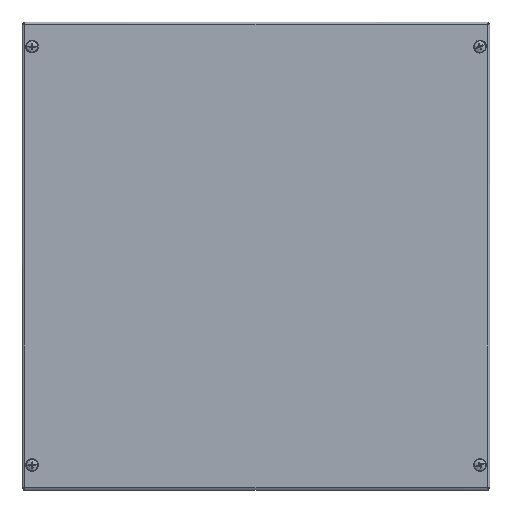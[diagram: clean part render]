
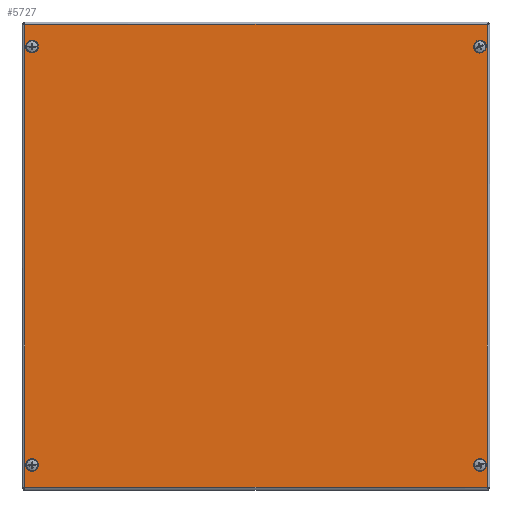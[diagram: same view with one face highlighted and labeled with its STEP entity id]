
A CAD part, top view. The second image highlights one B-rep face of the part: STEP entity #5727.
In plain terms, the highlighted planar face has unit normal (0, 0, 1) as drawn and (0, 0, -1) by its records, which use the part's own axes.
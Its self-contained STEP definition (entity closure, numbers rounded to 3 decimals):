
#118 = PLANE ( 'NONE',  #5169 ) ;
#128 = EDGE_CURVE ( 'NONE', #9107, #3028, #13155, .T. ) ;
#237 = LINE ( 'NONE', #12317, #1983 ) ;
#330 = CARTESIAN_POINT ( 'NONE',  ( -178., 170., -1.2 ) ) ;
#352 = AXIS2_PLACEMENT_3D ( 'NONE', #10757, #4428, #5777 ) ;
#436 = CARTESIAN_POINT ( 'NONE',  ( -182., -170., -1.2 ) ) ;
#445 = VECTOR ( 'NONE', #10883, 1000. ) ;
#817 = CARTESIAN_POINT ( 'NONE',  ( 182., -170., -1.2 ) ) ;
#1186 = CARTESIAN_POINT ( 'NONE',  ( 186., -170., -1.2 ) ) ;
#1303 = ORIENTED_EDGE ( 'NONE', *, *, #128, .T. ) ;
#1393 = DIRECTION ( 'NONE',  ( 1., 0., 0. ) ) ;
#1542 = EDGE_LOOP ( 'NONE', ( #4834, #8931 ) ) ;
#1595 = EDGE_LOOP ( 'NONE', ( #13066, #11720 ) ) ;
#1776 = DIRECTION ( 'NONE',  ( 0., -1., 0. ) ) ;
#1983 = VECTOR ( 'NONE', #10972, 1000. ) ;
#2049 = EDGE_CURVE ( 'NONE', #12381, #6771, #4382, .T. ) ;
#2065 = DIRECTION ( 'NONE',  ( 0., 0., 1. ) ) ;
#2163 = ORIENTED_EDGE ( 'NONE', *, *, #10282, .T. ) ;
#2205 = FACE_OUTER_BOUND ( 'NONE', #4569, .T. ) ;
#2556 = CARTESIAN_POINT ( 'NONE',  ( 182., -170., -1.2 ) ) ;
#2767 = DIRECTION ( 'NONE',  ( 0., 0., 1. ) ) ;
#2941 = ORIENTED_EDGE ( 'NONE', *, *, #4074, .T. ) ;
#3028 = VERTEX_POINT ( 'NONE', #1186 ) ;
#3058 = DIRECTION ( 'NONE',  ( 0., 0., 1. ) ) ;
#3351 = LINE ( 'NONE', #7424, #445 ) ;
#3438 = EDGE_CURVE ( 'NONE', #9289, #15317, #9785, .T. ) ;
#3766 = AXIS2_PLACEMENT_3D ( 'NONE', #12778, #8011, #14084 ) ;
#3898 = DIRECTION ( 'NONE',  ( 0., 0., 1. ) ) ;
#3918 = DIRECTION ( 'NONE',  ( 1., 0., 0. ) ) ;
#3925 = CIRCLE ( 'NONE', #12935, 4. ) ;
#3965 = DIRECTION ( 'NONE',  ( 0., 0., 1. ) ) ;
#4074 = EDGE_CURVE ( 'NONE', #15117, #9289, #10174, .T. ) ;
#4082 = DIRECTION ( 'NONE',  ( 0., 0., 1. ) ) ;
#4239 = VERTEX_POINT ( 'NONE', #14470 ) ;
#4281 = ORIENTED_EDGE ( 'NONE', *, *, #12298, .T. ) ;
#4382 = CIRCLE ( 'NONE', #3766, 4. ) ;
#4428 = DIRECTION ( 'NONE',  ( 0., 0., 1. ) ) ;
#4569 = EDGE_LOOP ( 'NONE', ( #13392, #6776, #2941, #5632 ) ) ;
#4644 = VERTEX_POINT ( 'NONE', #330 ) ;
#4691 = FACE_BOUND ( 'NONE', #13509, .T. ) ;
#4729 = EDGE_CURVE ( 'NONE', #8464, #15976, #7034, .T. ) ;
#4834 = ORIENTED_EDGE ( 'NONE', *, *, #6335, .T. ) ;
#5169 = AXIS2_PLACEMENT_3D ( 'NONE', #11228, #8787, #1393 ) ;
#5363 = EDGE_CURVE ( 'NONE', #4239, #15117, #3351, .T. ) ;
#5478 = FACE_BOUND ( 'NONE', #1542, .T. ) ;
#5632 = ORIENTED_EDGE ( 'NONE', *, *, #3438, .T. ) ;
#5727 = ADVANCED_FACE ( 'NONE', ( #11675, #4691, #7219, #5478, #2205 ), #118, .F. ) ;
#5777 = DIRECTION ( 'NONE',  ( 1., 0., 0. ) ) ;
#6329 = CARTESIAN_POINT ( 'NONE',  ( 182., 170., -1.2 ) ) ;
#6335 = EDGE_CURVE ( 'NONE', #4644, #8668, #3925, .T. ) ;
#6361 = AXIS2_PLACEMENT_3D ( 'NONE', #817, #2065, #14385 ) ;
#6411 = CARTESIAN_POINT ( 'NONE',  ( 188.063, -188.063, -1.2 ) ) ;
#6723 = ORIENTED_EDGE ( 'NONE', *, *, #4729, .T. ) ;
#6724 = DIRECTION ( 'NONE',  ( 1., 0., 0. ) ) ;
#6771 = VERTEX_POINT ( 'NONE', #12948 ) ;
#6776 = ORIENTED_EDGE ( 'NONE', *, *, #5363, .T. ) ;
#7034 = CIRCLE ( 'NONE', #352, 4. ) ;
#7106 = AXIS2_PLACEMENT_3D ( 'NONE', #436, #4082, #3918 ) ;
#7219 = FACE_BOUND ( 'NONE', #15480, .T. ) ;
#7424 = CARTESIAN_POINT ( 'NONE',  ( -188.093, 188.063, -1.2 ) ) ;
#7498 = CARTESIAN_POINT ( 'NONE',  ( 188.093, -188.063, -1.2 ) ) ;
#7519 = DIRECTION ( 'NONE',  ( 1., 0., 0. ) ) ;
#7679 = CARTESIAN_POINT ( 'NONE',  ( 186., 170., -1.2 ) ) ;
#7691 = AXIS2_PLACEMENT_3D ( 'NONE', #2556, #3898, #7519 ) ;
#7904 = CARTESIAN_POINT ( 'NONE',  ( -188.063, -188.063, -1.2 ) ) ;
#8011 = DIRECTION ( 'NONE',  ( 0., 0., 1. ) ) ;
#8330 = AXIS2_PLACEMENT_3D ( 'NONE', #6329, #2767, #14954 ) ;
#8464 = VERTEX_POINT ( 'NONE', #13204 ) ;
#8668 = VERTEX_POINT ( 'NONE', #9718 ) ;
#8787 = DIRECTION ( 'NONE',  ( 0., 0., 1. ) ) ;
#8931 = ORIENTED_EDGE ( 'NONE', *, *, #12864, .T. ) ;
#9056 = CARTESIAN_POINT ( 'NONE',  ( 188.063, 188.093, -1.2 ) ) ;
#9107 = VERTEX_POINT ( 'NONE', #15894 ) ;
#9289 = VERTEX_POINT ( 'NONE', #6411 ) ;
#9718 = CARTESIAN_POINT ( 'NONE',  ( -186., 170., -1.2 ) ) ;
#9785 = LINE ( 'NONE', #7498, #12682 ) ;
#10174 = LINE ( 'NONE', #9056, #15203 ) ;
#10282 = EDGE_CURVE ( 'NONE', #3028, #9107, #15786, .T. ) ;
#10283 = CARTESIAN_POINT ( 'NONE',  ( -186., -170., -1.2 ) ) ;
#10699 = CIRCLE ( 'NONE', #7106, 4. ) ;
#10725 = DIRECTION ( 'NONE',  ( -1., 0., 0. ) ) ;
#10757 = CARTESIAN_POINT ( 'NONE',  ( 182., 170., -1.2 ) ) ;
#10883 = DIRECTION ( 'NONE',  ( 1., 0., 0. ) ) ;
#10972 = DIRECTION ( 'NONE',  ( 0., 1., 0. ) ) ;
#11228 = CARTESIAN_POINT ( 'NONE',  ( 0., 0., -1.2 ) ) ;
#11480 = DIRECTION ( 'NONE',  ( 1., 0., 0. ) ) ;
#11675 = FACE_BOUND ( 'NONE', #1595, .T. ) ;
#11720 = ORIENTED_EDGE ( 'NONE', *, *, #2049, .T. ) ;
#11851 = CIRCLE ( 'NONE', #8330, 4. ) ;
#12298 = EDGE_CURVE ( 'NONE', #15976, #8464, #11851, .T. ) ;
#12317 = CARTESIAN_POINT ( 'NONE',  ( -188.063, -188.093, -1.2 ) ) ;
#12381 = VERTEX_POINT ( 'NONE', #10283 ) ;
#12648 = EDGE_CURVE ( 'NONE', #15317, #4239, #237, .T. ) ;
#12682 = VECTOR ( 'NONE', #10725, 1000. ) ;
#12727 = CARTESIAN_POINT ( 'NONE',  ( -182., 170., -1.2 ) ) ;
#12778 = CARTESIAN_POINT ( 'NONE',  ( -182., -170., -1.2 ) ) ;
#12809 = CARTESIAN_POINT ( 'NONE',  ( 188.063, 188.063, -1.2 ) ) ;
#12864 = EDGE_CURVE ( 'NONE', #8668, #4644, #15160, .T. ) ;
#12935 = AXIS2_PLACEMENT_3D ( 'NONE', #13772, #3965, #11480 ) ;
#12948 = CARTESIAN_POINT ( 'NONE',  ( -178., -170., -1.2 ) ) ;
#13066 = ORIENTED_EDGE ( 'NONE', *, *, #13187, .T. ) ;
#13155 = CIRCLE ( 'NONE', #7691, 4. ) ;
#13187 = EDGE_CURVE ( 'NONE', #6771, #12381, #10699, .T. ) ;
#13204 = CARTESIAN_POINT ( 'NONE',  ( 178., 170., -1.2 ) ) ;
#13331 = AXIS2_PLACEMENT_3D ( 'NONE', #12727, #3058, #6724 ) ;
#13392 = ORIENTED_EDGE ( 'NONE', *, *, #12648, .T. ) ;
#13509 = EDGE_LOOP ( 'NONE', ( #2163, #1303 ) ) ;
#13772 = CARTESIAN_POINT ( 'NONE',  ( -182., 170., -1.2 ) ) ;
#14084 = DIRECTION ( 'NONE',  ( 1., 0., 0. ) ) ;
#14385 = DIRECTION ( 'NONE',  ( 1., 0., 0. ) ) ;
#14470 = CARTESIAN_POINT ( 'NONE',  ( -188.063, 188.063, -1.2 ) ) ;
#14954 = DIRECTION ( 'NONE',  ( 1., 0., 0. ) ) ;
#15117 = VERTEX_POINT ( 'NONE', #12809 ) ;
#15160 = CIRCLE ( 'NONE', #13331, 4. ) ;
#15203 = VECTOR ( 'NONE', #1776, 1000. ) ;
#15317 = VERTEX_POINT ( 'NONE', #7904 ) ;
#15480 = EDGE_LOOP ( 'NONE', ( #4281, #6723 ) ) ;
#15786 = CIRCLE ( 'NONE', #6361, 4. ) ;
#15894 = CARTESIAN_POINT ( 'NONE',  ( 178., -170., -1.2 ) ) ;
#15976 = VERTEX_POINT ( 'NONE', #7679 ) ;
